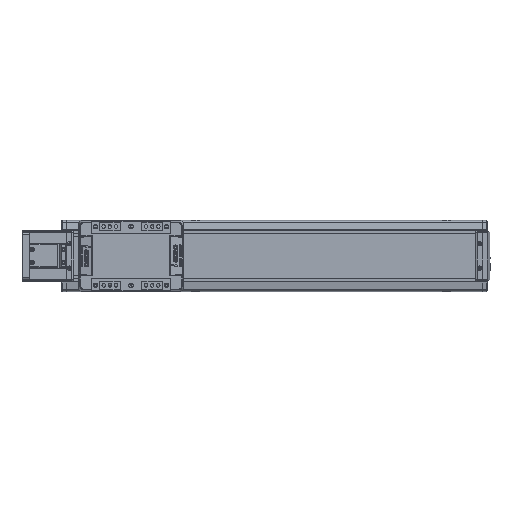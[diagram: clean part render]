
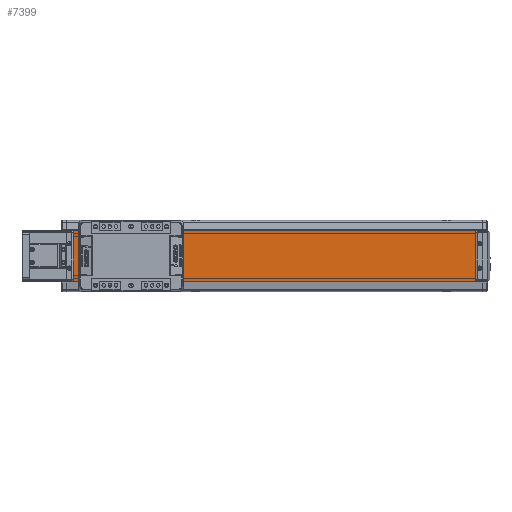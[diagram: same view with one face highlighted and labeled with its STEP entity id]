
A CAD part, top view. The second image highlights one B-rep face of the part: STEP entity #7399.
In plain terms, the highlighted planar face has unit normal (0, 0, 1).
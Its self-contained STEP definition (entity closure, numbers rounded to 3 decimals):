
#7399=ADVANCED_FACE('',(#15025),#15026,.T.);
#15025=FACE_OUTER_BOUND('',#23578,.T.);
#15026=PLANE('',#23579);
#23578=EDGE_LOOP('',(#45188,#45189,#45190,#45191));
#23579=AXIS2_PLACEMENT_3D('',#45192,#45193,#45194);
#45188=ORIENTED_EDGE('',*,*,#46613,.T.);
#45189=ORIENTED_EDGE('',*,*,#47811,.F.);
#45190=ORIENTED_EDGE('',*,*,#48651,.T.);
#45191=ORIENTED_EDGE('',*,*,#46458,.T.);
#45192=CARTESIAN_POINT('',(-580.,0.,20.15));
#45193=DIRECTION('',(0.,0.,1.0));
#45194=DIRECTION('',(0.,-1.0,0.));
#46458=EDGE_CURVE('',#55441,#55439,#55442,.T.);
#46613=EDGE_CURVE('',#55439,#55716,#55718,.T.);
#47811=EDGE_CURVE('',#57804,#55716,#57806,.T.);
#48651=EDGE_CURVE('',#57804,#55441,#59224,.T.);
#55439=VERTEX_POINT('',#68466);
#55441=VERTEX_POINT('',#68469);
#55442=LINE('',#68470,#68471);
#55716=VERTEX_POINT('',#68812);
#55718=LINE('',#68815,#68816);
#57804=VERTEX_POINT('',#71831);
#57806=LINE('',#71834,#71835);
#59224=LINE('',#73939,#73940);
#68466=CARTESIAN_POINT('',(0.,-35.,20.15));
#68469=CARTESIAN_POINT('',(-580.,-35.,20.15));
#68470=CARTESIAN_POINT('',(-580.,-35.,20.15));
#68471=VECTOR('',#86199,10.0);
#68812=CARTESIAN_POINT('',(0.,35.,20.15));
#68815=CARTESIAN_POINT('',(0.,35.,20.15));
#68816=VECTOR('',#86442,10.0);
#71831=CARTESIAN_POINT('',(-580.,35.,20.15));
#71834=CARTESIAN_POINT('',(-580.,35.,20.15));
#71835=VECTOR('',#88147,10.0);
#73939=CARTESIAN_POINT('',(-580.,35.,20.15));
#73940=VECTOR('',#89319,10.0);
#86199=DIRECTION('',(1.0,0.,0.));
#86442=DIRECTION('',(0.,1.0,0.));
#88147=DIRECTION('',(1.0,0.,0.));
#89319=DIRECTION('',(0.,-1.0,0.));
